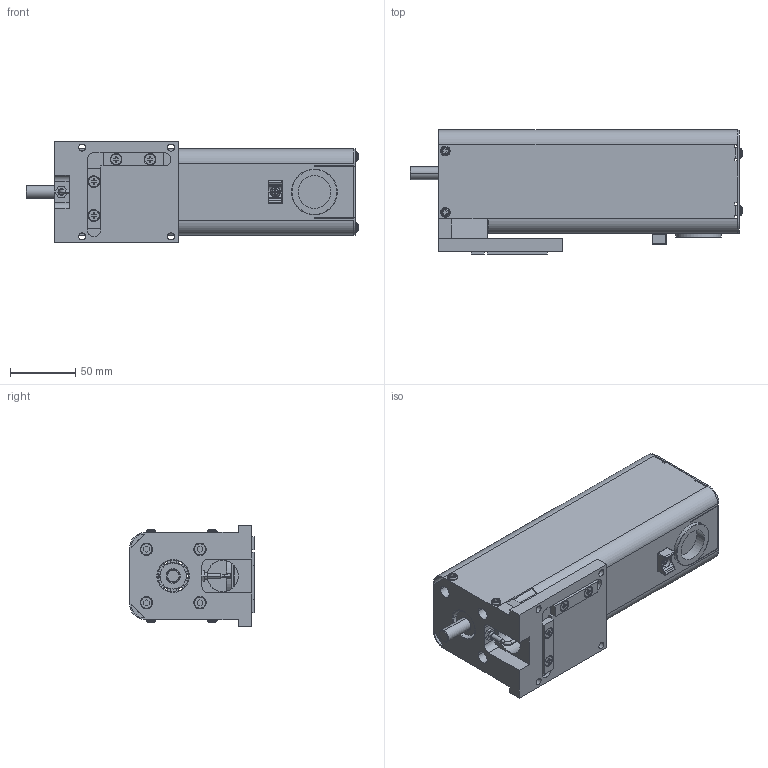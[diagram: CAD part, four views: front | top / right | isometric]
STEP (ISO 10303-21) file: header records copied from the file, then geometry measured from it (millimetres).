
FILE_DESCRIPTION((''),'2;1');
FILE_NAME('BE00D-RH-A_N_IGS_PRT','2017-06-17T',(' '),(''),'PRO/ENGINEER BY PARAMETRIC TECHNOLOGY CORPORATION, 2015030','PRO/ENGINEER BY PARAMETRIC TECHNOLOGY CORPORATION, 2015030','');
FILE_SCHEMA(('CONFIG_CONTROL_DESIGN'));
Length unit declared in the file: millimetre
Products named in the file (1): BE00D-RH-A_N_IGS_PRT
Bounding box: 254.2 x 95.2 x 78 mm (x, y, z)
Volume: 252036.6 mm3; surface area: 176441.2 mm2
Topology: 2 solids, 49 shells, 832 faces, 2095 edges, 1346 vertices
Faces by surface type: plane 370, cylinder 356, cone 42, torus 38, sphere 24, bspline 2
Entity records: 25470 total; most frequent: CARTESIAN_POINT 4770, DIRECTION 4549, ORIENTED_EDGE 4034, EDGE_CURVE 2087, AXIS2_PLACEMENT_3D 1689, VERTEX_POINT 1346, VECTOR 1171, LINE 1171
